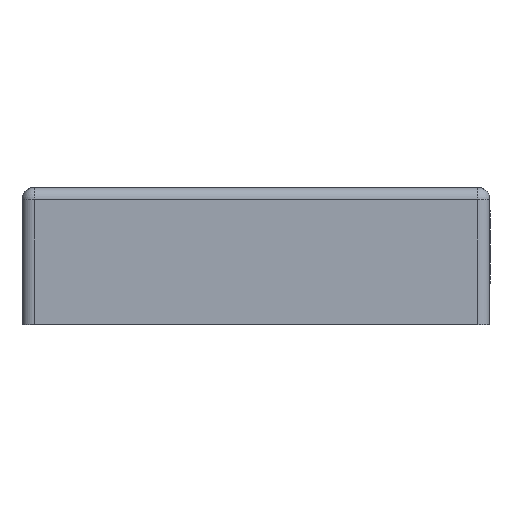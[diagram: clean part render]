
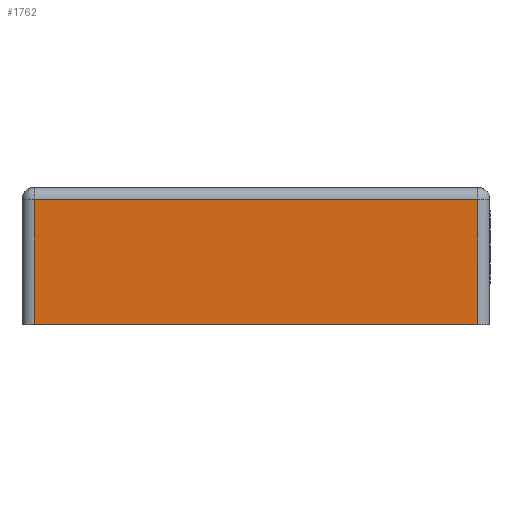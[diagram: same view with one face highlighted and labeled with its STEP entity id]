
A CAD part, front view. The second image highlights one B-rep face of the part: STEP entity #1762.
In plain terms, the highlighted planar face has unit normal (0, -1, -0.018).
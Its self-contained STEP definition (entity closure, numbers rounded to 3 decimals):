
#1762=ADVANCED_FACE('',(#2783),#2214,.F.);
#2214=PLANE('',#13751);
#2783=FACE_OUTER_BOUND('',#3447,.T.);
#3447=EDGE_LOOP('',(#6712,#6713,#6714,#6715));
#6712=ORIENTED_EDGE('',*,*,#10320,.T.);
#6713=ORIENTED_EDGE('',*,*,#10020,.T.);
#6714=ORIENTED_EDGE('',*,*,#10321,.T.);
#6715=ORIENTED_EDGE('',*,*,#9215,.T.);
#7770=VERTEX_POINT('',#18506);
#7813=VERTEX_POINT('',#18619);
#8300=VERTEX_POINT('',#21683);
#8335=VERTEX_POINT('',#21762);
#9215=EDGE_CURVE('',#7770,#7813,#10910,.T.);
#10020=EDGE_CURVE('',#8335,#8300,#11372,.T.);
#10320=EDGE_CURVE('',#7813,#8335,#11653,.T.);
#10321=EDGE_CURVE('',#8300,#7770,#11654,.T.);
#10910=LINE('',#18620,#12119);
#11372=LINE('',#21761,#12650);
#11653=LINE('',#22358,#12931);
#11654=LINE('',#22359,#12932);
#12119=VECTOR('',#14751,1.);
#12650=VECTOR('',#16098,1.);
#12931=VECTOR('',#16621,1.);
#12932=VECTOR('',#16622,1.);
#13751=AXIS2_PLACEMENT_3D('',#22360,#16623,#16624);
#14751=DIRECTION('',(0.,0.017,-1.));
#16098=DIRECTION('',(0.,-0.017,1.));
#16621=DIRECTION('',(1.,0.,0.));
#16622=DIRECTION('',(-1.,0.,0.));
#16623=DIRECTION('',(0.,1.,0.017));
#16624=DIRECTION('',(0.,0.017,-1.));
#18506=CARTESIAN_POINT('',(-42.508,52.707,0.));
#18619=CARTESIAN_POINT('',(-42.508,52.977,-15.474));
#18620=CARTESIAN_POINT('',(-42.508,52.842,-7.737));
#21683=CARTESIAN_POINT('',(12.492,52.707,0.));
#21761=CARTESIAN_POINT('',(12.492,52.842,-7.737));
#21762=CARTESIAN_POINT('',(12.492,52.977,-15.474));
#22358=CARTESIAN_POINT('',(-1.258,52.977,-15.474));
#22359=CARTESIAN_POINT('',(-1.258,52.707,0.));
#22360=CARTESIAN_POINT('',(13.992,52.706,0.029));
